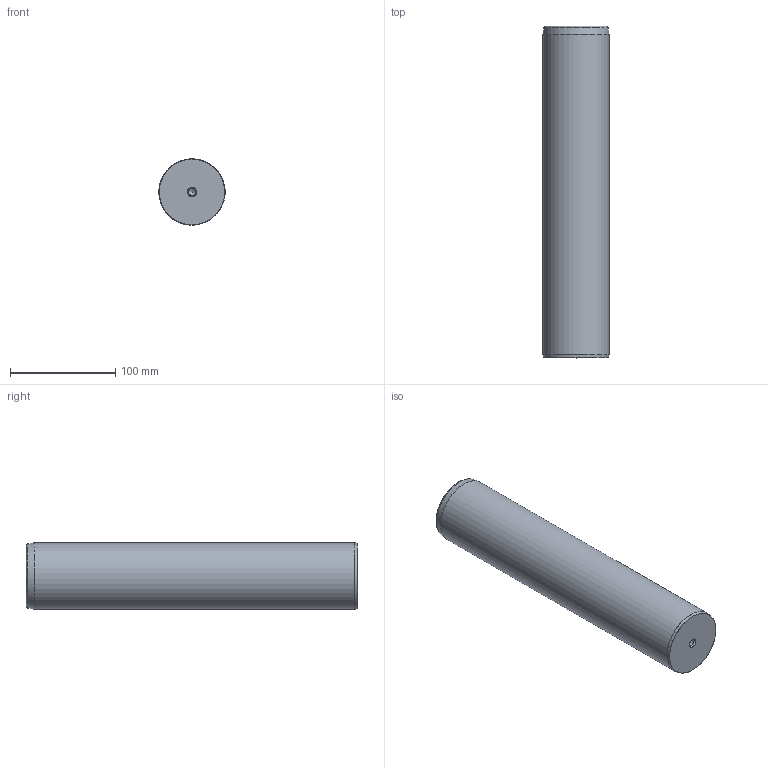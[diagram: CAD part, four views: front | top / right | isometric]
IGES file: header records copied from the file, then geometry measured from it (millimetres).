
Start section: Missler Software BP 521, 31674 Labege Cedex, France Tel   : +33 (0)5 61 00 03 00 Fax   : +33 (0)5 61 00 03 03 Email : sup.topsolid@topsolid.com
Global section: file name: D:\Cuma\D14-2\D14_63315.igs; native system: TopSolid v605250 Missler Software; preprocessor: IGES preprocessor v100000; date: 030120.200455; units: millimetre
Bounding box: 62.81 x 315 x 63 mm (x, y, z)
Surface area: 69369.5 mm2 (no closed solid volume)
Topology: 0 solids, 0 shells, 14 faces, 145 edges, 136 vertices
Faces by surface type: bspline 14
